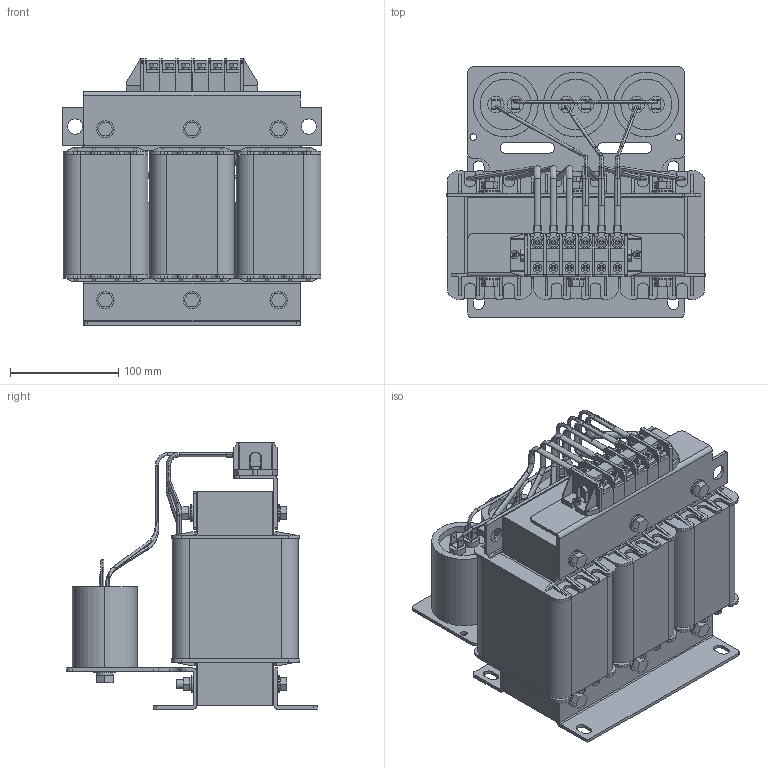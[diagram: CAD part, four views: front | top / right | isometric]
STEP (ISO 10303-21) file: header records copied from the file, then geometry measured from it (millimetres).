
FILE_DESCRIPTION (( 'STEP AP203' ), '1' );
FILE_NAME ('蔓躅漤铋 耔眢耥 翳朦蝠 _ ISINOF-15_32-4.STEP', '2026-07-16T12:51:56', ( '' ), ( '' ), 'SwSTEP 2.0', 'SolidWorks 2021', '' );
FILE_SCHEMA (( 'CONFIG_CONTROL_DESIGN' ));
Length unit declared in the file: inch
Products named in the file (180): 15KW滤波电抗器380V50Hz_113; 15KW滤波电抗器380V50Hz_88; 15KW滤波电抗器380V50Hz_176; 15KW滤波电抗器380V50Hz_132; 15KW滤波电抗器380V50Hz_161; 15KW滤波电抗器380V50Hz_104; 15KW滤波电抗器380V50Hz_120; 15KW滤波电抗器380V50Hz_60; 15KW滤波电抗器380V50Hz_168; 15KW滤波电抗器380V50Hz_172; 15KW滤波电抗器380V50Hz_77; 15KW滤波电抗器380V50Hz_21; 15KW滤波电抗器380V50Hz_133; 15KW滤波电抗器380V50Hz_6; 15KW滤波电抗器380V50Hz_13; 15KW滤波电抗器380V50Hz_103; 15KW滤波电抗器380V50Hz_87; 15KW滤波电抗器380V50Hz_170; 15KW滤波电抗器380V50Hz_42; 15KW滤波电抗器380V50Hz_93; 15KW滤波电抗器380V50Hz_76; 15KW滤波电抗器380V50Hz_67; 15KW滤波电抗器380V50Hz_39; 15KW滤波电抗器380V50Hz_97; 15KW滤波电抗器380V50Hz_81; 15KW滤波电抗器380V50Hz_54; 15KW滤波电抗器380V50Hz_115; 15KW滤波电抗器380V50Hz_10; 15KW滤波电抗器380V50Hz_71; 15KW滤波电抗器380V50Hz_86; 15KW滤波电抗器380V50Hz_160; 15KW滤波电抗器380V50Hz_95; 15KW滤波电抗器380V50Hz_80; 15KW滤波电抗器380V50Hz_44; 15KW滤波电抗器380V50Hz_64; 15KW滤波电抗器380V50Hz_158; 15KW滤波电抗器380V50Hz_112; 15KW滤波电抗器380V50Hz_92; 15KW滤波电抗器380V50Hz_5; 15KW滤波电抗器380V50Hz_82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
Assembly tree (179 placements, depth 2):
  蔓躅漤铋 耔眢耥 翳朦蝠 _ ISINOF-15_32-4
    15KW滤波电抗器380V50Hz_164
    15KW滤波电抗器380V50Hz_44
    15KW滤波电抗器380V50Hz_117
    15KW滤波电抗器380V50Hz_88
    15KW滤波电抗器380V50Hz_7
    15KW滤波电抗器380V50Hz_178
    15KW滤波电抗器380V50Hz_38
    15KW滤波电抗器380V50Hz
    15KW滤波电抗器380V50Hz_59
    15KW滤波电抗器380V50Hz_143
    15KW滤波电抗器380V50Hz_134
    15KW滤波电抗器380V50Hz_167
    15KW滤波电抗器380V50Hz_1
    15KW滤波电抗器380V50Hz_56
    15KW滤波电抗器380V50Hz_3
    15KW滤波电抗器380V50Hz_131
    15KW滤波电抗器380V50Hz_35
    15KW滤波电抗器380V50Hz_141
    15KW滤波电抗器380V50Hz_82
    15KW滤波电抗器380V50Hz_6
    15KW滤波电抗器380V50Hz_165
    15KW滤波电抗器380V50Hz_71
    15KW滤波电抗器380V50Hz_173
    15KW滤波电抗器380V50Hz_84
    15KW滤波电抗器380V50Hz_149
    15KW滤波电抗器380V50Hz_43
    15KW滤波电抗器380V50Hz_12
    15KW滤波电抗器380V50Hz_156
    15KW滤波电抗器380V50Hz_29
    15KW滤波电抗器380V50Hz_48
    15KW滤波电抗器380V50Hz_123
    15KW滤波电抗器380V50Hz_91
    15KW滤波电抗器380V50Hz_67
    15KW滤波电抗器380V50Hz_26
    15KW滤波电抗器380V50Hz_171
    15KW滤波电抗器380V50Hz_50
    15KW滤波电抗器380V50Hz_160
    15KW滤波电抗器380V50Hz_83
    15KW滤波电抗器380V50Hz_22
    15KW滤波电抗器380V50Hz_18
    15KW滤波电抗器380V50Hz_138
    15KW滤波电抗器380V50Hz_101
    15KW滤波电抗器380V50Hz_158
    15KW滤波电抗器380V50Hz_170
    15KW滤波电抗器380V50Hz_8
    15KW滤波电抗器380V50Hz_114
    15KW滤波电抗器380V50Hz_69
    15KW滤波电抗器380V50Hz_98
    15KW滤波电抗器380V50Hz_62
    15KW滤波电抗器380V50Hz_36
    15KW滤波电抗器380V50Hz_155
    15KW滤波电抗器380V50Hz_148
    15KW滤波电抗器380V50Hz_28
    15KW滤波电抗器380V50Hz_133
    15KW滤波电抗器380V50Hz_152
    15KW滤波电抗器380V50Hz_42
    15KW滤波电抗器380V50Hz_40
    15KW滤波电抗器380V50Hz_66
    15KW滤波电抗器380V50Hz_159
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Bounding box: 240 x 231.5 x 246 mm (x, y, z)
Volume: 5168656.1 mm3; surface area: 1095877.4 mm2
Topology: 179 solids, 179 shells, 2436 faces, 5980 edges, 3936 vertices
Faces by surface type: plane 1682, cylinder 616, bspline 84, cone 28, torus 26
Entity records: 94490 total; most frequent: CARTESIAN_POINT 16518, DIRECTION 12002, ORIENTED_EDGE 11960, EDGE_CURVE 5980, LINE 4462, VECTOR 4462, VERTEX_POINT 3936, AXIS2_PLACEMENT_3D 3770
